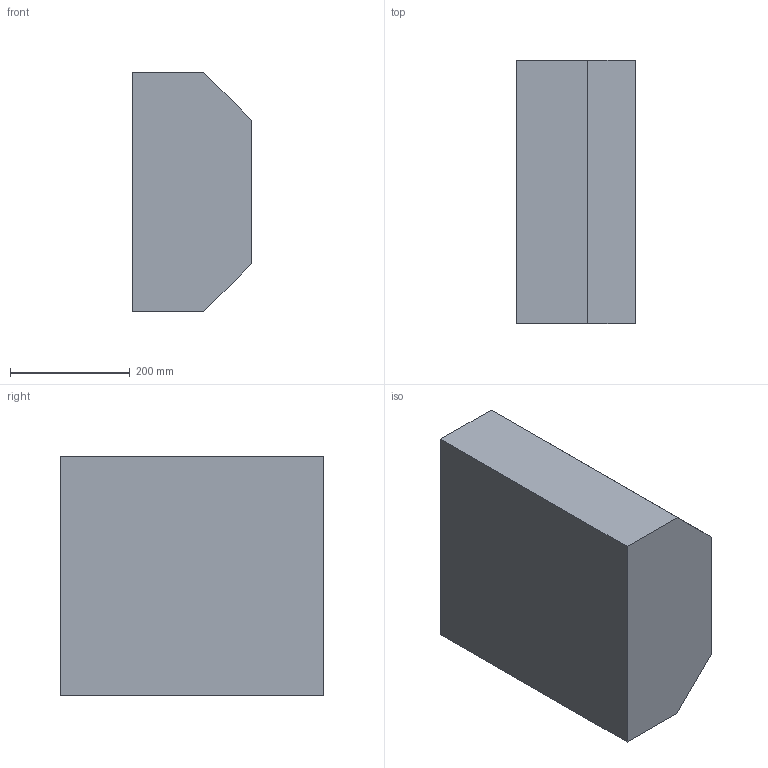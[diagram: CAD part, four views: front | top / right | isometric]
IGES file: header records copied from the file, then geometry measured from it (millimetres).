
Start section: This line is the first line of the start section. You can replacexxxxxxy these line and add as many as you want
Global section: file name: /usr2/plg/parts/_bcd/bb.iges; native system: COMPUTERVISION CADDS5 REV 5.0 GRAPHIC SYSTEM; preprocessor: CV Translator Products, Revision 1.1.3 PATCH; author: Author; organization: Organization; date: 950612.132548; units: millimetre
Bounding box: 198.86 x 440 x 400 mm (x, y, z)
Surface area: 632048.6 mm2 (no closed solid volume)
Topology: 0 solids, 0 shells, 8 faces, 36 edges, 36 vertices
Faces by surface type: bspline 8
